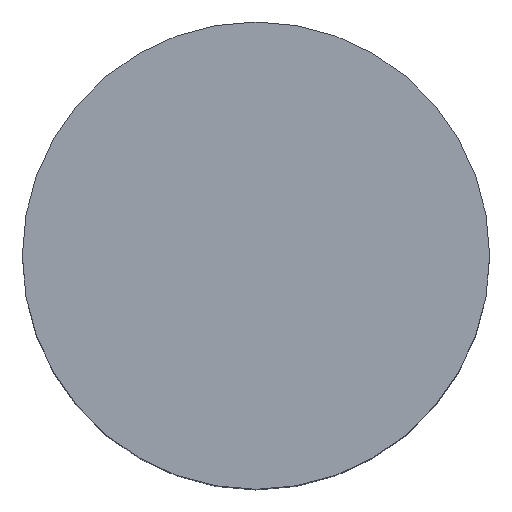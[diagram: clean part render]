
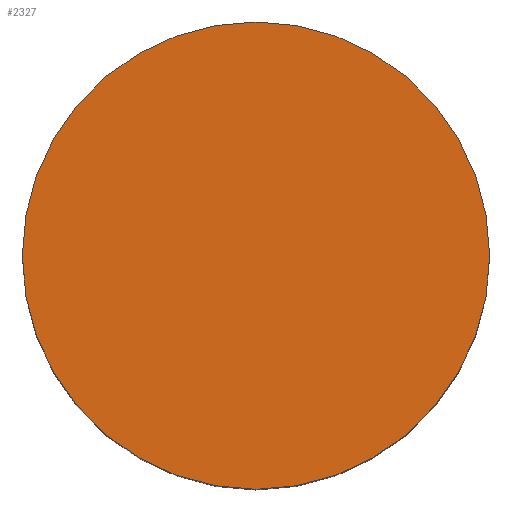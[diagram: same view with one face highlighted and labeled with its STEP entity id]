
A CAD part, top view. The second image highlights one B-rep face of the part: STEP entity #2327.
In plain terms, the highlighted planar face has unit normal (0, 0, 1).
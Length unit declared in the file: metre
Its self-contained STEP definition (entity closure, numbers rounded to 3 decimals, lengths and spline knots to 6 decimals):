
#134 = EDGE_CURVE ( 'NONE', #2380, #2437, #2088, .T. ) ;
#334 = EDGE_LOOP ( 'NONE', ( #780, #1480 ) ) ;
#576 = DIRECTION ( 'NONE',  ( 1., 0., 0. ) ) ;
#607 = CARTESIAN_POINT ( 'NONE',  ( 0., 0., 0.035 ) ) ;
#780 = ORIENTED_EDGE ( 'NONE', *, *, #1326, .T. ) ;
#1014 = PLANE ( 'NONE',  #1893 ) ;
#1050 = AXIS2_PLACEMENT_3D ( 'NONE', #2262, #1857, #1478 ) ;
#1322 = DIRECTION ( 'NONE',  ( 0., 0., 1. ) ) ;
#1326 = EDGE_CURVE ( 'NONE', #2437, #2380, #2320, .T. ) ;
#1382 = CARTESIAN_POINT ( 'NONE',  ( -0.003, 0., 0.035 ) ) ;
#1478 = DIRECTION ( 'NONE',  ( 1., 0., 0. ) ) ;
#1480 = ORIENTED_EDGE ( 'NONE', *, *, #134, .T. ) ;
#1541 = CARTESIAN_POINT ( 'NONE',  ( 0., 0., 0.035 ) ) ;
#1794 = AXIS2_PLACEMENT_3D ( 'NONE', #1541, #1949, #576 ) ;
#1857 = DIRECTION ( 'NONE',  ( 0., 0., 1. ) ) ;
#1893 = AXIS2_PLACEMENT_3D ( 'NONE', #607, #1322, #2125 ) ;
#1949 = DIRECTION ( 'NONE',  ( 0., 0., 1. ) ) ;
#2049 = CARTESIAN_POINT ( 'NONE',  ( 0.003, 0., 0.035 ) ) ;
#2088 = CIRCLE ( 'NONE', #1794, 0.003 ) ;
#2099 = FACE_OUTER_BOUND ( 'NONE', #334, .T. ) ;
#2125 = DIRECTION ( 'NONE',  ( 1., 0., 0. ) ) ;
#2262 = CARTESIAN_POINT ( 'NONE',  ( 0., 0., 0.035 ) ) ;
#2320 = CIRCLE ( 'NONE', #1050, 0.003 ) ;
#2327 = ADVANCED_FACE ( 'NONE', ( #2099 ), #1014, .T. ) ;
#2380 = VERTEX_POINT ( 'NONE', #1382 ) ;
#2437 = VERTEX_POINT ( 'NONE', #2049 ) ;
